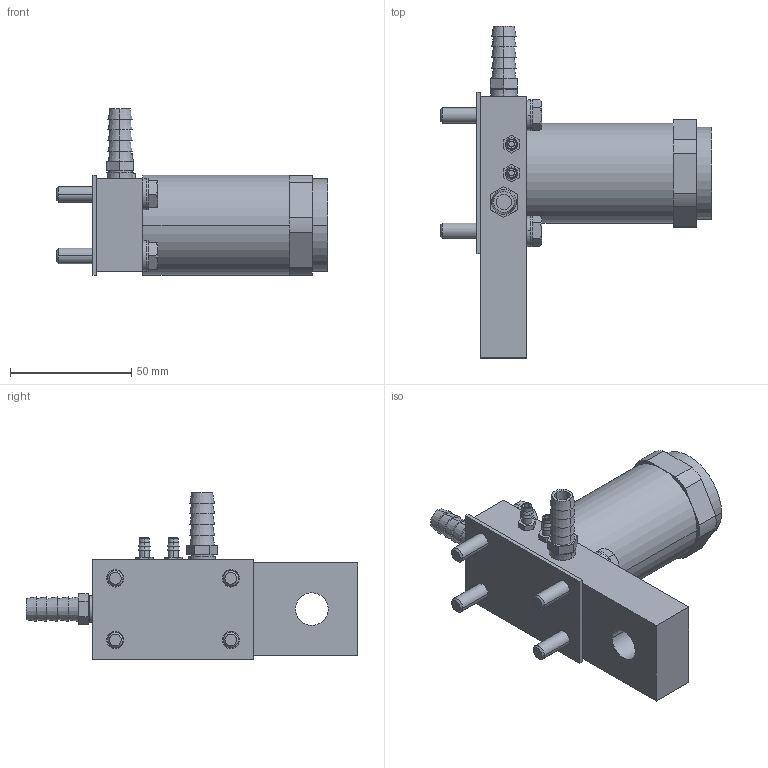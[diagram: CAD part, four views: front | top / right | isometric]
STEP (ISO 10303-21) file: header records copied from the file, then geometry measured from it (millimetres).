
FILE_DESCRIPTION((''),'2;1');
FILE_NAME('XHR4_ASM','2017-08-24T',('jennifer.elliott'),('CenterLine (Windsor) Ltd - Automation Components Division'),'PRO/ENGINEER BY PARAMETRIC TECHNOLOGY CORPORATION, 2015030','PRO/ENGINEER BY PARAMETRIC TECHNOLOGY CORPORATION, 2015030','');
FILE_SCHEMA(('AUTOMOTIVE_DESIGN { 1 0 10303 214 1 1 1 1 }'));
Length unit declared in the file: inch
Products named in the file (22): PRT1243; PRT1244; PRT1245; PRT1246; PRT1247; PRT1248; PRT1249; PRT1250; PRT1251; PRT1252; PRT1253; PRT1254; PRT1255; PRT1256; PRT1257; PRT1258; PRT1259; PRT1260; PRT1261; PRT1262; PRT1263; XHR4_ASM
Assembly tree (21 placements, depth 2):
  XHR4_ASM
    PRT1243
    PRT1244
    PRT1245
    PRT1246
    PRT1247
    PRT1248
    PRT1249
    PRT1250
    PRT1251
    PRT1252
    PRT1253
    PRT1254
    PRT1255
    PRT1256
    PRT1257
    PRT1258
    PRT1259
    PRT1260
    PRT1261
    PRT1262
    PRT1263
Bounding box: 111.95 x 136.91 x 68.64 mm (x, y, z)
Volume: 187876 mm3; surface area: 52202.6 mm2
Topology: 21 solids, 21 shells, 300 faces, 662 edges, 432 vertices
Faces by surface type: plane 132, cylinder 96, cone 64, torus 8
Entity records: 10011 total; most frequent: CARTESIAN_POINT 1753, DIRECTION 1616, ORIENTED_EDGE 1324, EDGE_CURVE 662, AXIS2_PLACEMENT_3D 659, VERTEX_POINT 432, EDGE_LOOP 370, CIRCLE 316
